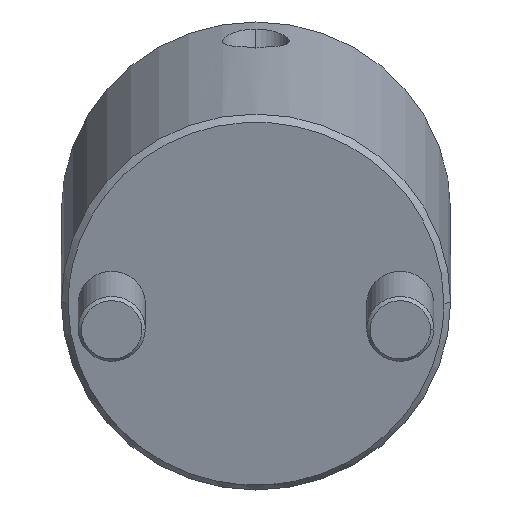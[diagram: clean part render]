
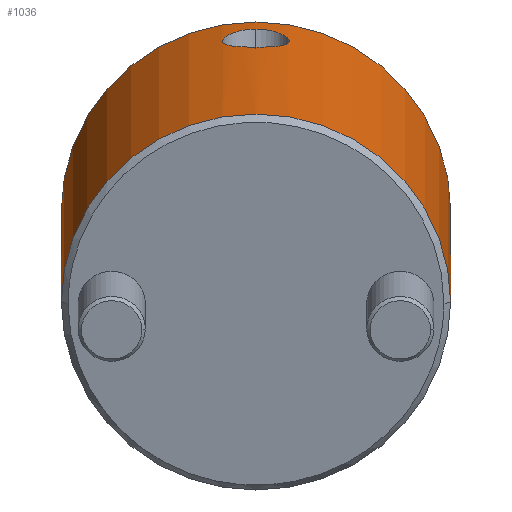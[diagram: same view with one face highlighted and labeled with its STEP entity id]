
A CAD part, front view. The second image highlights one B-rep face of the part: STEP entity #1036.
In plain terms, the highlighted cylindrical face has radius 29 mm (diameter 58 mm), a partial arc.
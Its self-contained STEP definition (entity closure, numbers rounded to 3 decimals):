
#772=CARTESIAN_POINT('Vertex',(0.,29.,1.)) ;
#775=CARTESIAN_POINT('Axis2P3D Location',(0.,0.,1.)) ;
#779=CARTESIAN_POINT('Vertex',(0.,-29.,1.)) ;
#931=CARTESIAN_POINT('Axis2P3D Location',(0.,0.,-2.75)) ;
#936=CARTESIAN_POINT('Line Origine',(0.,29.,-2.75)) ;
#940=CARTESIAN_POINT('Vertex',(0.,29.,54.)) ;
#943=CARTESIAN_POINT('Axis2P3D Location',(0.,0.,54.)) ;
#947=CARTESIAN_POINT('Vertex',(0.,-29.,54.)) ;
#950=CARTESIAN_POINT('Line Origine',(0.,-29.,-2.75)) ;
#962=CARTESIAN_POINT('Control Point',(29.,0.,49.884)) ;
#963=CARTESIAN_POINT('Control Point',(29.,0.418,49.884)) ;
#964=CARTESIAN_POINT('Control Point',(28.992,0.835,49.838)) ;
#965=CARTESIAN_POINT('Control Point',(28.977,1.251,49.742)) ;
#966=CARTESIAN_POINT('Control Point',(28.939,1.957,49.494)) ;
#967=CARTESIAN_POINT('Control Point',(28.884,2.612,49.109)) ;
#968=CARTESIAN_POINT('Control Point',(28.858,2.882,48.92)) ;
#969=CARTESIAN_POINT('Control Point',(28.794,3.479,48.422)) ;
#970=CARTESIAN_POINT('Control Point',(28.727,3.987,47.807)) ;
#971=CARTESIAN_POINT('Control Point',(28.69,4.238,47.427)) ;
#972=CARTESIAN_POINT('Control Point',(28.641,4.556,46.814)) ;
#973=CARTESIAN_POINT('Control Point',(28.605,4.773,46.168)) ;
#974=CARTESIAN_POINT('Control Point',(28.594,4.834,45.951)) ;
#975=CARTESIAN_POINT('Control Point',(28.573,4.958,45.399)) ;
#976=CARTESIAN_POINT('Control Point',(28.564,5.011,44.833)) ;
#977=CARTESIAN_POINT('Control Point',(28.563,5.015,44.494)) ;
#978=CARTESIAN_POINT('Control Point',(28.57,4.978,43.933)) ;
#979=CARTESIAN_POINT('Control Point',(28.588,4.869,43.389)) ;
#980=CARTESIAN_POINT('Control Point',(28.598,4.815,43.177)) ;
#981=CARTESIAN_POINT('Control Point',(28.62,4.683,42.758)) ;
#982=CARTESIAN_POINT('Control Point',(28.648,4.507,42.357)) ;
#983=CARTESIAN_POINT('Control Point',(28.663,4.409,42.161)) ;
#984=CARTESIAN_POINT('Control Point',(28.696,4.192,41.782)) ;
#985=CARTESIAN_POINT('Control Point',(28.732,3.935,41.431)) ;
#986=CARTESIAN_POINT('Control Point',(28.751,3.797,41.262)) ;
#987=CARTESIAN_POINT('Control Point',(28.808,3.356,40.78)) ;
#988=CARTESIAN_POINT('Control Point',(28.864,2.84,40.375)) ;
#989=CARTESIAN_POINT('Control Point',(28.899,2.466,40.144)) ;
#990=CARTESIAN_POINT('Control Point',(28.952,1.765,39.81)) ;
#991=CARTESIAN_POINT('Control Point',(28.985,1.013,39.617)) ;
#992=CARTESIAN_POINT('Control Point',(28.995,0.677,39.56)) ;
#993=CARTESIAN_POINT('Control Point',(29.,0.34,39.532)) ;
#994=CARTESIAN_POINT('Control Point',(29.,0.,39.532)) ;
#995=CARTESIAN_POINT('Vertex',(29.,0.,49.884)) ;
#997=CARTESIAN_POINT('Vertex',(29.,0.,39.532)) ;
#1001=CARTESIAN_POINT('Control Point',(29.,0.,39.532)) ;
#1002=CARTESIAN_POINT('Control Point',(29.,-0.438,39.532)) ;
#1003=CARTESIAN_POINT('Control Point',(28.992,-0.872,39.578)) ;
#1004=CARTESIAN_POINT('Control Point',(28.975,-1.303,39.673)) ;
#1005=CARTESIAN_POINT('Control Point',(28.94,-1.925,39.882)) ;
#1006=CARTESIAN_POINT('Control Point',(28.893,-2.503,40.19)) ;
#1007=CARTESIAN_POINT('Control Point',(28.876,-2.69,40.303)) ;
#1008=CARTESIAN_POINT('Control Point',(28.84,-3.05,40.548)) ;
#1009=CARTESIAN_POINT('Control Point',(28.803,-3.38,40.831)) ;
#1010=CARTESIAN_POINT('Control Point',(28.784,-3.537,40.981)) ;
#1011=CARTESIAN_POINT('Control Point',(28.737,-3.91,41.38)) ;
#1012=CARTESIAN_POINT('Control Point',(28.692,-4.224,41.825)) ;
#1013=CARTESIAN_POINT('Control Point',(28.666,-4.39,42.108)) ;
#1014=CARTESIAN_POINT('Control Point',(28.606,-4.772,42.897)) ;
#1015=CARTESIAN_POINT('Control Point',(28.57,-4.979,43.757)) ;
#1016=CARTESIAN_POINT('Control Point',(28.559,-5.039,44.323)) ;
#1017=CARTESIAN_POINT('Control Point',(28.564,-5.013,45.122)) ;
#1018=CARTESIAN_POINT('Control Point',(28.592,-4.848,45.895)) ;
#1019=CARTESIAN_POINT('Control Point',(28.602,-4.79,46.114)) ;
#1020=CARTESIAN_POINT('Control Point',(28.637,-4.579,46.76)) ;
#1021=CARTESIAN_POINT('Control Point',(28.685,-4.268,47.377)) ;
#1022=CARTESIAN_POINT('Control Point',(28.722,-4.02,47.761)) ;
#1023=CARTESIAN_POINT('Control Point',(28.799,-3.448,48.469)) ;
#1024=CARTESIAN_POINT('Control Point',(28.872,-2.757,49.027)) ;
#1025=CARTESIAN_POINT('Control Point',(28.905,-2.387,49.263)) ;
#1026=CARTESIAN_POINT('Control Point',(28.956,-1.701,49.603)) ;
#1027=CARTESIAN_POINT('Control Point',(28.986,-0.97,49.799)) ;
#1028=CARTESIAN_POINT('Control Point',(28.995,-0.646,49.856)) ;
#1029=CARTESIAN_POINT('Control Point',(29.,-0.324,49.884)) ;
#1030=CARTESIAN_POINT('Control Point',(29.,0.,49.884)) ;
#776=DIRECTION('Axis2P3D Direction',(0.,0.,1.)) ;
#932=DIRECTION('Axis2P3D Direction',(0.,-0.,1.)) ;
#933=DIRECTION('Axis2P3D XDirection',(0.,-1.,0.)) ;
#937=DIRECTION('Vector Direction',(0.,0.,1.)) ;
#944=DIRECTION('Axis2P3D Direction',(0.,-0.,1.)) ;
#951=DIRECTION('Vector Direction',(0.,0.,1.)) ;
#777=AXIS2_PLACEMENT_3D('Circle Axis2P3D',#775,#776,$) ;
#934=AXIS2_PLACEMENT_3D('Cylinder Axis2P3D',#931,#932,#933) ;
#945=AXIS2_PLACEMENT_3D('Circle Axis2P3D',#943,#944,$) ;
#956=ORIENTED_EDGE('',*,*,#942,.F.) ;
#957=ORIENTED_EDGE('',*,*,#949,.T.) ;
#958=ORIENTED_EDGE('',*,*,#954,.T.) ;
#959=ORIENTED_EDGE('',*,*,#781,.F.) ;
#1033=ORIENTED_EDGE('',*,*,#999,.T.) ;
#1034=ORIENTED_EDGE('',*,*,#1031,.T.) ;
#1035=FACE_BOUND('',#1032,.T.) ;
#938=VECTOR('Line Direction',#937,1.) ;
#952=VECTOR('Line Direction',#951,1.) ;
#1036=ADVANCED_FACE('MANIFOLD_SOLID_BREP #1144',(#960,#1035),#935,.T.) ;
#961=B_SPLINE_CURVE_WITH_KNOTS('',5,(#962,#963,#964,#965,#966,#967,#968,#969,#970,#971,#972,#973,#974,#975,#976,#977,#978,#979,#980,#981,#982,#983,#984,#985,#986,#987,#988,#989,#990,#991,#992,#993,#994),.UNSPECIFIED.,.F.,.U.,(6,3,3,3,3,3,3,3,3,3,6),(0.,3.077,5.41,8.557,10.138,12.469,14.024,15.585,17.144,20.255,22.672),.UNSPECIFIED.) ;
#1000=B_SPLINE_CURVE_WITH_KNOTS('',5,(#1001,#1002,#1003,#1004,#1005,#1006,#1007,#1008,#1009,#1010,#1011,#1012,#1013,#1014,#1015,#1016,#1017,#1018,#1019,#1020,#1021,#1022,#1023,#1024,#1025,#1026,#1027,#1028,#1029,#1030),.UNSPECIFIED.,.F.,.U.,(6,3,3,3,3,3,3,3,3,6),(0.,3.118,4.673,6.231,8.57,12.455,14.035,17.179,20.289,22.669),.UNSPECIFIED.) ;
#778=CIRCLE('generated circle',#777,29.) ;
#946=CIRCLE('generated circle',#945,29.) ;
#935=CYLINDRICAL_SURFACE('generated cylinder',#934,29.) ;
#781=EDGE_CURVE('',#773,#780,#778,.F.) ;
#942=EDGE_CURVE('',#941,#773,#939,.F.) ;
#949=EDGE_CURVE('',#941,#948,#946,.F.) ;
#954=EDGE_CURVE('',#948,#780,#953,.F.) ;
#999=EDGE_CURVE('',#996,#998,#961,.T.) ;
#1031=EDGE_CURVE('',#998,#996,#1000,.T.) ;
#955=EDGE_LOOP('',(#956,#957,#958,#959)) ;
#1032=EDGE_LOOP('',(#1033,#1034)) ;
#960=FACE_OUTER_BOUND('',#955,.T.) ;
#939=LINE('Line',#936,#938) ;
#953=LINE('Line',#950,#952) ;
#773=VERTEX_POINT('',#772) ;
#780=VERTEX_POINT('',#779) ;
#941=VERTEX_POINT('',#940) ;
#948=VERTEX_POINT('',#947) ;
#996=VERTEX_POINT('',#995) ;
#998=VERTEX_POINT('',#997) ;
